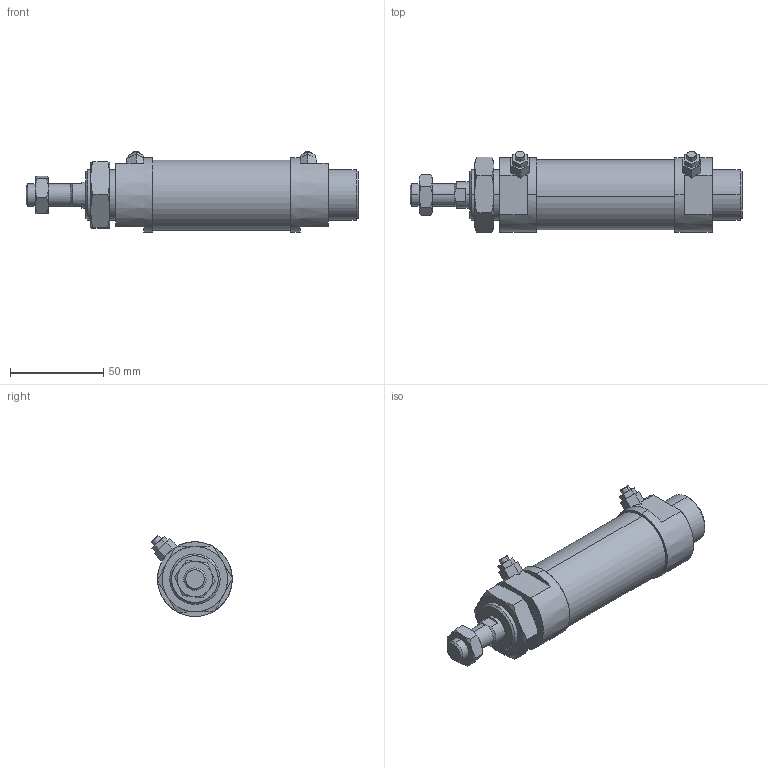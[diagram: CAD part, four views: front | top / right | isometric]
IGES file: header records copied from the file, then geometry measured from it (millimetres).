
Start section: SolidWorks IGES file using analytic representation for surfaces
Global section: file name: C:\Users\Toshiba\Desktop\JG2-32-25-N.IGS; native system: SolidWorks 2014; preprocessor: SolidWorks 2014; author: Toshiba; date: 160419.085039; units: millimetre
Bounding box: 178 x 43.53 x 43.33 mm (x, y, z)
Surface area: 30804.6 mm2 (no closed solid volume)
Topology: 0 solids, 0 shells, 129 faces, 1938 edges, 1934 vertices
Faces by surface type: bspline 91, revolution 38
